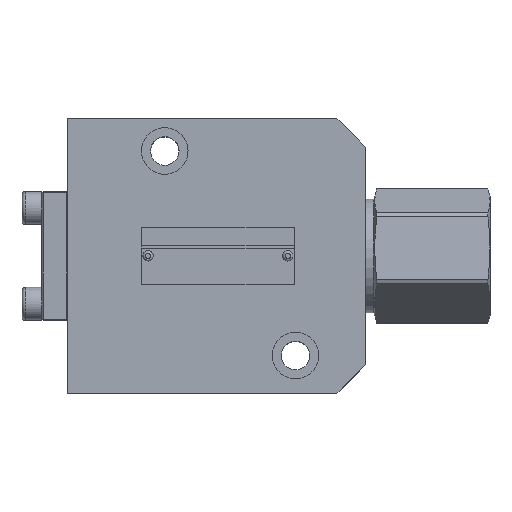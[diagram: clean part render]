
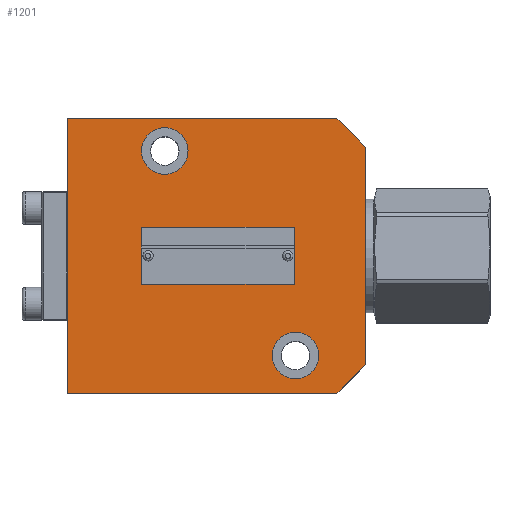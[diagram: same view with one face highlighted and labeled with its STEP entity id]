
A CAD part, top view. The second image highlights one B-rep face of the part: STEP entity #1201.
In plain terms, the highlighted planar face has unit normal (0, 0, 1).
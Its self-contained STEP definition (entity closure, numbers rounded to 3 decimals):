
#958=FACE_BOUND('',#1976,.T.);
#959=FACE_BOUND('',#1977,.T.);
#960=FACE_BOUND('',#1978,.T.);
#961=FACE_BOUND('',#1979,.T.);
#962=FACE_BOUND('',#1980,.T.);
#1201=ADVANCED_FACE('',(#958,#959,#960,#961,#962),#1507,.T.);
#1507=PLANE('',#5906);
#1976=EDGE_LOOP('',(#2998));
#1977=EDGE_LOOP('',(#2999));
#1978=EDGE_LOOP('',(#3000));
#1979=EDGE_LOOP('',(#3001));
#1980=EDGE_LOOP('',(#3002,#3003,#3004,#3005,#3006,#3007));
#2546=CIRCLE('',#5902,0.9);
#2547=CIRCLE('',#5903,0.9);
#2548=CIRCLE('',#5904,9.);
#2549=CIRCLE('',#5905,9.);
#2998=ORIENTED_EDGE('',*,*,#4625,.T.);
#2999=ORIENTED_EDGE('',*,*,#4626,.T.);
#3000=ORIENTED_EDGE('',*,*,#4627,.F.);
#3001=ORIENTED_EDGE('',*,*,#4628,.F.);
#3002=ORIENTED_EDGE('',*,*,#4600,.F.);
#3003=ORIENTED_EDGE('',*,*,#4624,.F.);
#3004=ORIENTED_EDGE('',*,*,#4617,.F.);
#3005=ORIENTED_EDGE('',*,*,#4614,.F.);
#3006=ORIENTED_EDGE('',*,*,#4610,.F.);
#3007=ORIENTED_EDGE('',*,*,#4607,.F.);
#4099=VERTEX_POINT('',#19621);
#4100=VERTEX_POINT('',#19623);
#4106=VERTEX_POINT('',#19637);
#4108=VERTEX_POINT('',#19643);
#4111=VERTEX_POINT('',#19651);
#4113=VERTEX_POINT('',#19657);
#4118=VERTEX_POINT('',#19672);
#4119=VERTEX_POINT('',#19674);
#4120=VERTEX_POINT('',#19676);
#4121=VERTEX_POINT('',#19678);
#4600=EDGE_CURVE('',#4099,#4100,#5157,.T.);
#4607=EDGE_CURVE('',#4100,#4106,#5160,.T.);
#4610=EDGE_CURVE('',#4106,#4108,#5163,.T.);
#4614=EDGE_CURVE('',#4108,#4111,#5166,.T.);
#4617=EDGE_CURVE('',#4111,#4113,#5169,.T.);
#4624=EDGE_CURVE('',#4113,#4099,#5172,.T.);
#4625=EDGE_CURVE('',#4118,#4118,#2546,.T.);
#4626=EDGE_CURVE('',#4119,#4119,#2547,.T.);
#4627=EDGE_CURVE('',#4120,#4120,#2548,.T.);
#4628=EDGE_CURVE('',#4121,#4121,#2549,.T.);
#5157=LINE('',#19622,#5498);
#5160=LINE('',#19636,#5501);
#5163=LINE('',#19642,#5504);
#5166=LINE('',#19650,#5507);
#5169=LINE('',#19656,#5510);
#5172=LINE('',#19669,#5513);
#5498=VECTOR('',#6539,1.);
#5501=VECTOR('',#6552,1.);
#5504=VECTOR('',#6557,1.);
#5507=VECTOR('',#6564,1.);
#5510=VECTOR('',#6569,1.);
#5513=VECTOR('',#6582,1.);
#5902=AXIS2_PLACEMENT_3D('',#19671,#6585,#6586);
#5903=AXIS2_PLACEMENT_3D('',#19673,#6587,#6588);
#5904=AXIS2_PLACEMENT_3D('',#19675,#6589,#6590);
#5905=AXIS2_PLACEMENT_3D('',#19677,#6591,#6592);
#5906=AXIS2_PLACEMENT_3D('',#19679,#6593,#6594);
#6539=DIRECTION('',(0.,1.,0.));
#6552=DIRECTION('',(1.,0.,0.));
#6557=DIRECTION('',(0.707,-0.707,0.));
#6564=DIRECTION('',(0.,-1.,0.));
#6569=DIRECTION('',(-0.707,-0.707,0.));
#6582=DIRECTION('',(-1.,0.,0.));
#6585=DIRECTION('',(0.,0.,-1.));
#6586=DIRECTION('',(-1.,0.,0.));
#6587=DIRECTION('',(0.,0.,-1.));
#6588=DIRECTION('',(-1.,0.,0.));
#6589=DIRECTION('',(0.,0.,1.));
#6590=DIRECTION('',(1.,0.,0.));
#6591=DIRECTION('',(0.,0.,1.));
#6592=DIRECTION('',(1.,0.,0.));
#6593=DIRECTION('',(0.,0.,1.));
#6594=DIRECTION('',(-1.,0.,0.));
#19621=CARTESIAN_POINT('',(279.731,125.834,22.04));
#19622=CARTESIAN_POINT('',(279.731,125.834,22.04));
#19623=CARTESIAN_POINT('',(279.731,231.834,22.04));
#19636=CARTESIAN_POINT('',(279.731,231.834,22.04));
#19637=CARTESIAN_POINT('',(383.731,231.834,22.04));
#19642=CARTESIAN_POINT('',(383.731,231.834,22.04));
#19643=CARTESIAN_POINT('',(394.731,220.834,22.04));
#19650=CARTESIAN_POINT('',(394.731,220.834,22.04));
#19651=CARTESIAN_POINT('',(394.731,136.834,22.04));
#19656=CARTESIAN_POINT('',(394.731,136.834,22.04));
#19657=CARTESIAN_POINT('',(383.731,125.834,22.04));
#19669=CARTESIAN_POINT('',(383.731,125.834,22.04));
#19671=CARTESIAN_POINT('',(364.731,178.834,22.04));
#19672=CARTESIAN_POINT('',(363.831,178.834,22.04));
#19673=CARTESIAN_POINT('',(310.731,178.834,22.04));
#19674=CARTESIAN_POINT('',(309.831,178.834,22.04));
#19675=CARTESIAN_POINT('',(317.231,219.334,22.04));
#19676=CARTESIAN_POINT('',(326.231,219.334,22.04));
#19677=CARTESIAN_POINT('',(367.731,140.334,22.04));
#19678=CARTESIAN_POINT('',(376.731,140.334,22.04));
#19679=CARTESIAN_POINT('',(367.731,140.334,22.04));
